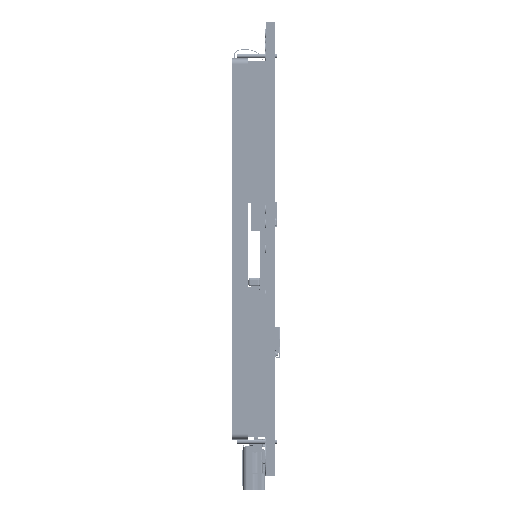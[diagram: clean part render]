
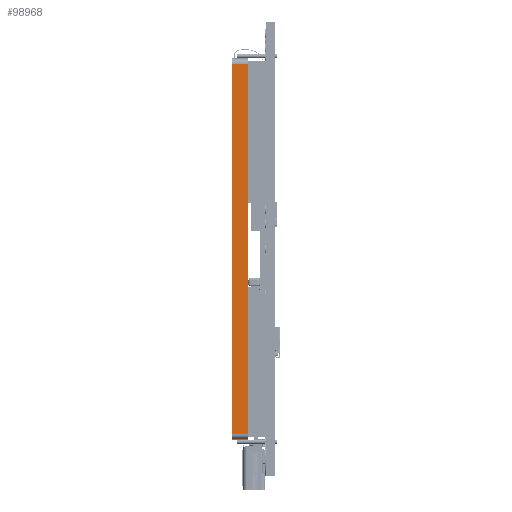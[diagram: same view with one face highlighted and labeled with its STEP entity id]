
A CAD part, left-side view. The second image highlights one B-rep face of the part: STEP entity #98968.
In plain terms, the highlighted planar face has unit normal (-1, 0, 0).
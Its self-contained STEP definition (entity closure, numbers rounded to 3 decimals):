
#2045 = LINE ( 'NONE', #10139, #74220 ) ;
#3378 = AXIS2_PLACEMENT_3D ( 'NONE', #105088, #18605, #119455 ) ;
#5175 = CARTESIAN_POINT ( 'NONE',  ( -51.19, 4.6, 43.815 ) ) ;
#10139 = CARTESIAN_POINT ( 'NONE',  ( -51.19, 7.55, 43.815 ) ) ;
#13396 = VECTOR ( 'NONE', #103055, 1000. ) ;
#14730 = ORIENTED_EDGE ( 'NONE', *, *, #122159, .T. ) ;
#15415 = PLANE ( 'NONE',  #3378 ) ;
#16797 = VERTEX_POINT ( 'NONE', #119535 ) ;
#17142 = DIRECTION ( 'NONE',  ( 0., -1., 0. ) ) ;
#18605 = DIRECTION ( 'NONE',  ( 1., 0., 0. ) ) ;
#19106 = EDGE_CURVE ( 'NONE', #16797, #72303, #146220, .T. ) ;
#26117 = CARTESIAN_POINT ( 'NONE',  ( -51.19, 4.6, -22.385 ) ) ;
#35956 = EDGE_CURVE ( 'NONE', #72303, #43268, #2045, .T. ) ;
#38619 = LINE ( 'NONE', #118022, #76986 ) ;
#39120 = DIRECTION ( 'NONE',  ( 0., 1., 0. ) ) ;
#39201 = VERTEX_POINT ( 'NONE', #123067 ) ;
#43268 = VERTEX_POINT ( 'NONE', #91334 ) ;
#69581 = VECTOR ( 'NONE', #141461, 1000. ) ;
#72303 = VERTEX_POINT ( 'NONE', #5175 ) ;
#73865 = EDGE_CURVE ( 'NONE', #39201, #43268, #123911, .T. ) ;
#74220 = VECTOR ( 'NONE', #39120, 1000. ) ;
#76986 = VECTOR ( 'NONE', #17142, 1000. ) ;
#90258 = ORIENTED_EDGE ( 'NONE', *, *, #73865, .F. ) ;
#91334 = CARTESIAN_POINT ( 'NONE',  ( -51.19, 7.55, 43.815 ) ) ;
#98968 = ADVANCED_FACE ( 'NONE', ( #123732 ), #15415, .F. ) ;
#103055 = DIRECTION ( 'NONE',  ( 0., 0., 1. ) ) ;
#103667 = CARTESIAN_POINT ( 'NONE',  ( -51.19, 7.55, -22.385 ) ) ;
#105088 = CARTESIAN_POINT ( 'NONE',  ( -51.19, 7.55, -22.385 ) ) ;
#118022 = CARTESIAN_POINT ( 'NONE',  ( -51.19, 7.55, -21.385 ) ) ;
#119455 = DIRECTION ( 'NONE',  ( 0., 0., -1. ) ) ;
#119535 = CARTESIAN_POINT ( 'NONE',  ( -51.19, 4.6, -21.385 ) ) ;
#122159 = EDGE_CURVE ( 'NONE', #39201, #16797, #38619, .T. ) ;
#123067 = CARTESIAN_POINT ( 'NONE',  ( -51.19, 7.55, -21.385 ) ) ;
#123732 = FACE_OUTER_BOUND ( 'NONE', #136609, .T. ) ;
#123911 = LINE ( 'NONE', #103667, #13396 ) ;
#136609 = EDGE_LOOP ( 'NONE', ( #174820, #154532, #90258, #14730 ) ) ;
#141461 = DIRECTION ( 'NONE',  ( 0., 0., 1. ) ) ;
#146220 = LINE ( 'NONE', #26117, #69581 ) ;
#154532 = ORIENTED_EDGE ( 'NONE', *, *, #35956, .T. ) ;
#174820 = ORIENTED_EDGE ( 'NONE', *, *, #19106, .T. ) ;
